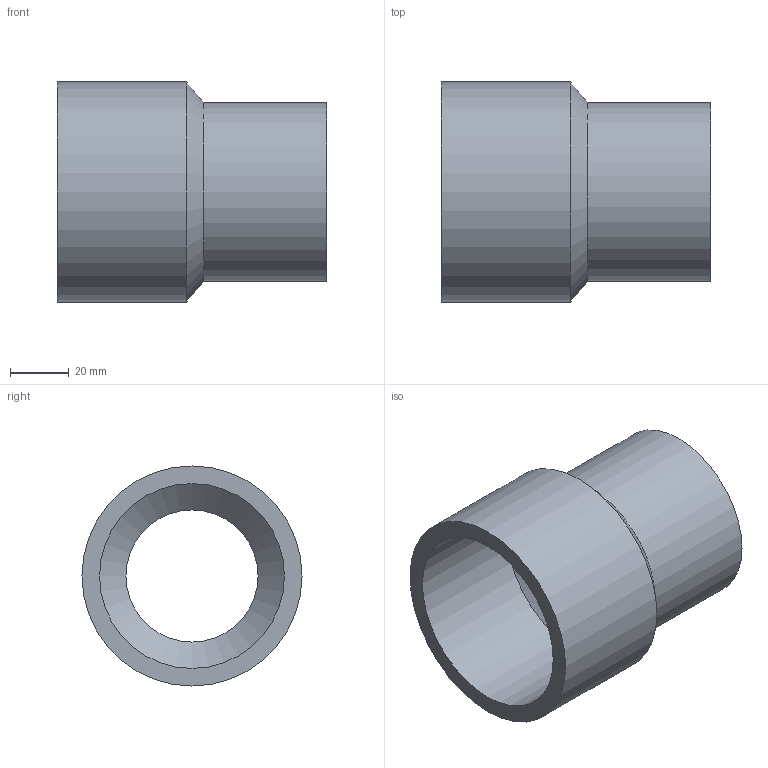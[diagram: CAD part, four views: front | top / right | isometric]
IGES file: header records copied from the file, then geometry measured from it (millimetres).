
Global section: file name: 050200075050.ipt; native system: Autodesk Inventor 2015; preprocessor: unknown; author: KIM; date: 20171207.164212; units: millimetre
Bounding box: 92 x 75 x 75 mm (x, y, z)
Volume: 108847 mm3; surface area: 39923 mm2
Topology: 1 solids, 1 shells, 10 faces, 23 edges, 16 vertices
Faces by surface type: revolution 4, plane 3, cylinder 2, cone 1
Full cylindrical faces by diameter (mm): 61 x1, 75 x1
